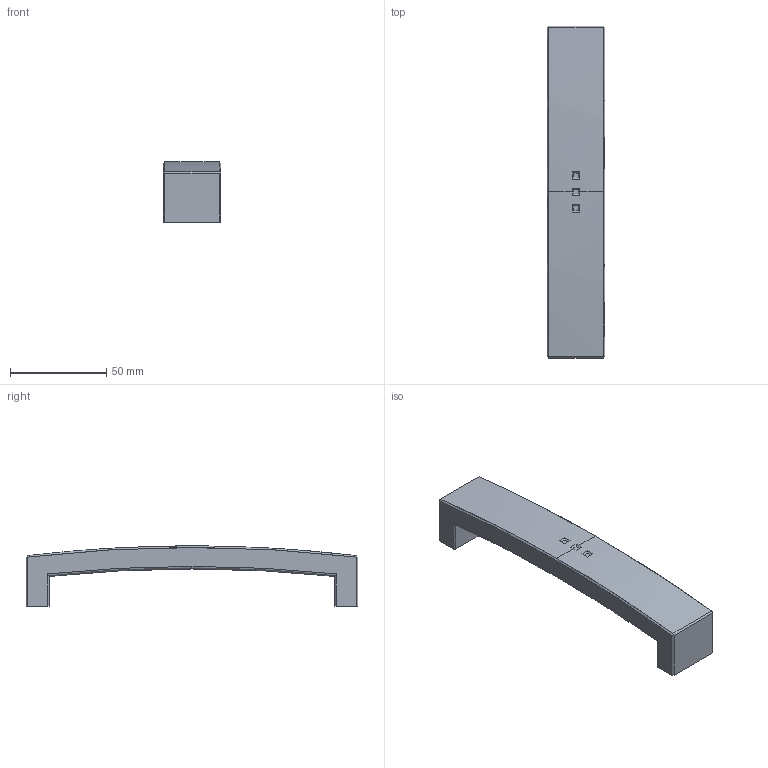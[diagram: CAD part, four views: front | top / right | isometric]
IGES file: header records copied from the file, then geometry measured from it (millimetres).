
Start section: C
Global section: file name: 0094-170.igs; native system: By Siemens PLM Incorporated; preprocessor: XPlus GENERIC/IGES 16.0.42; author: Author; organization: Title; date: 20260104.152134; units: millimetre
Bounding box: 30 x 172.5 x 31.3 mm (x, y, z)
Surface area: 24425.9 mm2 (no closed solid volume)
Topology: 0 solids, 0 shells, 88 faces, 442 edges, 442 vertices
Faces by surface type: bspline 88
